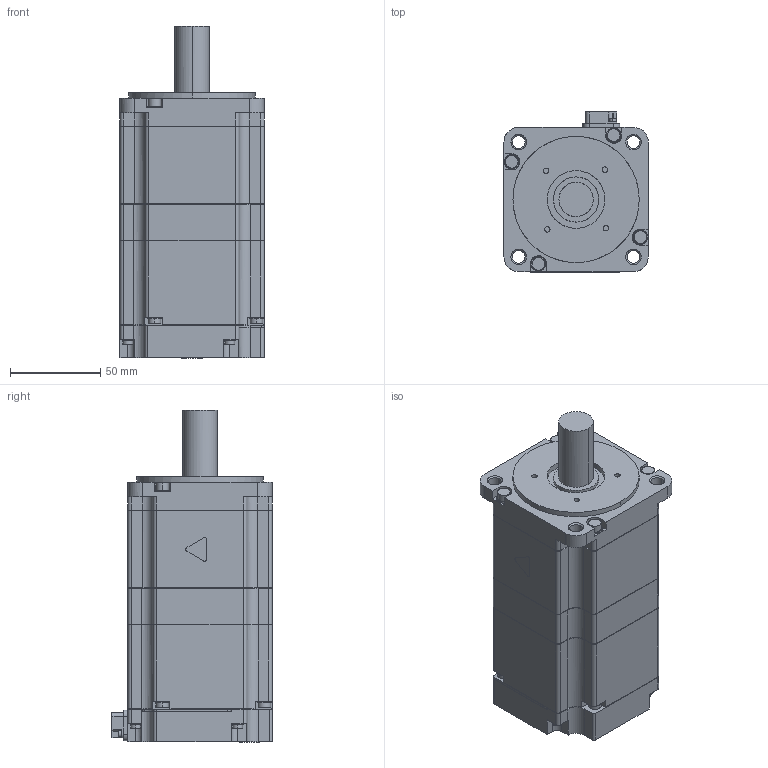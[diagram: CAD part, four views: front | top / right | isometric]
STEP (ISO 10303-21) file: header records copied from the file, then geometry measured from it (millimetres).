
FILE_DESCRIPTION (( 'STEP AP203' ), '1' );
FILE_NAME ('sgm7j_08a_a2c.STEP', '2015-02-02T02:01:30', ( '匠エンジニアリング山之内' ), ( 'TAKUMI-Engniaring' ), 'SwSTEP 2.0', 'SolidWorks 2006303', '' );
FILE_SCHEMA (( 'CONFIG_CONTROL_DESIGN' ));
Length unit declared in the file: millimetre
Products named in the file (1): sgm7j_08a_a2c
Bounding box: 80.1 x 88.8 x 184.1 mm (x, y, z)
Volume: 833225.1 mm3; surface area: 64623.6 mm2
Topology: 1 solids, 1 shells, 517 faces, 1453 edges, 992 vertices
Faces by surface type: plane 272, cylinder 229, cone 16
Entity records: 20400 total; most frequent: CARTESIAN_POINT 7617, ORIENTED_EDGE 2906, DIRECTION 2183, EDGE_CURVE 1453, VERTEX_POINT 992, VECTOR 863, LINE 863, AXIS2_PLACEMENT_3D 660
